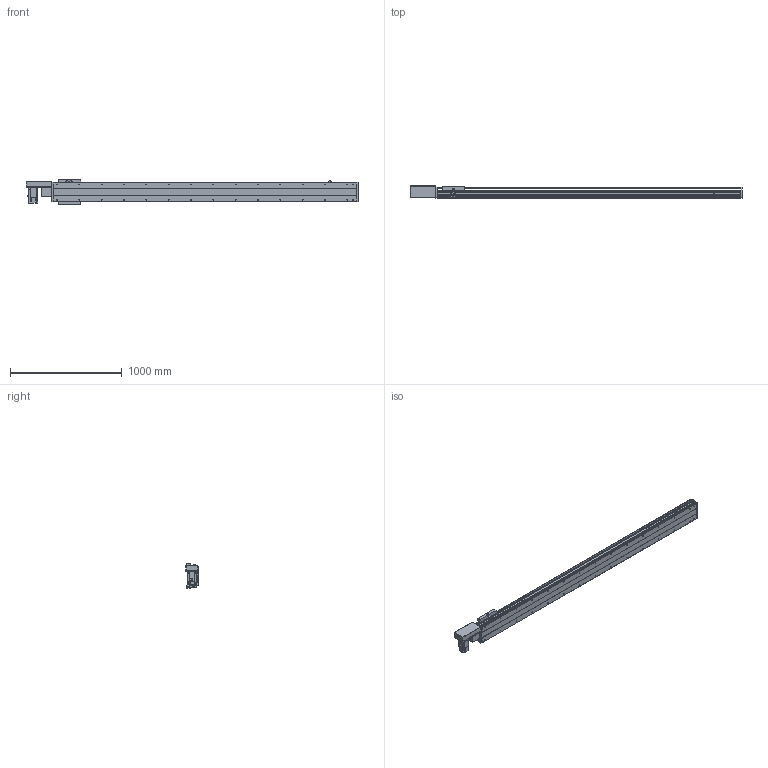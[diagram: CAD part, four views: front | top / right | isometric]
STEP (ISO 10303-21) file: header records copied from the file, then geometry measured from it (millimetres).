
FILE_DESCRIPTION(/* description */ ('STEP AP214'),/* implementation_level */ '2;1');
FILE_NAME(/* name */ 'PBS200-P40-S2350-R-T75-C1-N(0)',/* time_stamp */ '2022-06-11T08:10:21+02:00',/* author */ ('License CC BY-ND 4.0'),/* organization */ ('CADENAS'),/* preprocessor_version */ 'ST-DEVELOPER v18.102',/* originating_system */ 'PARTsolutions',/* authorisation */ ' ');
FILE_SCHEMA (('AUTOMOTIVE_DESIGN {1 0 10303 214 3 1 1}'));
Length unit declared in the file: millimetre
Products named in the file (7): PBS200-P40-S2350-R-T75-C1-N(0); PBS200_sensor; PBS200_plant; PBS200_sliser; T75-p1; PBS200T-R_motors; PBS200-S2350()_body
Assembly tree (8 placements, depth 2):
  PBS200-P40-S2350-R-T75-C1-N(0)
    PBS200_sensor  x3
    PBS200_plant
    PBS200_sliser
    T75-p1
    PBS200T-R_motors
    PBS200-S2350()_body
Bounding box: 2972 x 109 x 221 mm (x, y, z)
Volume: 19666858.6 mm3; surface area: 3148900.9 mm2
Topology: 8 solids, 8 shells, 962 faces, 2444 edges, 1590 vertices
Faces by surface type: plane 588, cylinder 312, cone 62
Full cylindrical faces by diameter (mm): 2.459 x6, 3.242 x4, 4.5 x6, 4.917 x4, 5 x6, 6 x7, 6.6 x8, 6.647 x34, 8 x6, 10 x4, 12 x8, 38 x2, 40 x1, 70 x1
Entity records: 25421 total; most frequent: DIRECTION 4495, CARTESIAN_POINT 4318, ORIENTED_EDGE 4066, EDGE_CURVE 2033, AXIS2_PLACEMENT_3D 1591, VERTEX_POINT 1414, LINE 1313, VECTOR 1313
